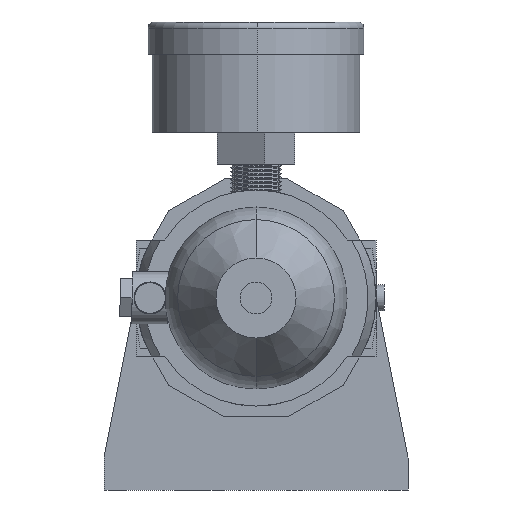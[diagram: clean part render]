
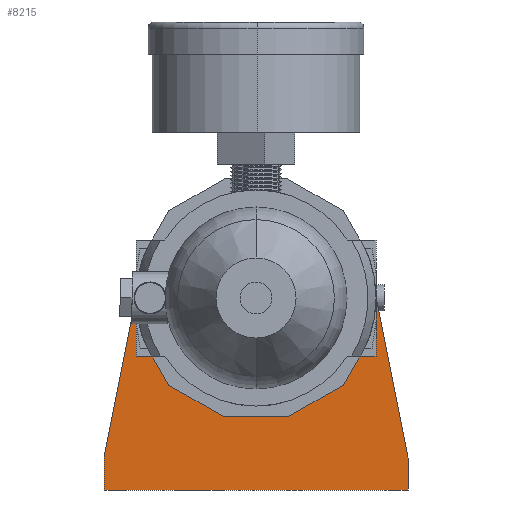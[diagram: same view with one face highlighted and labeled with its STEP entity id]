
A CAD part, front view. The second image highlights one B-rep face of the part: STEP entity #8215.
In plain terms, the highlighted planar face has unit normal (0, -1, 0).
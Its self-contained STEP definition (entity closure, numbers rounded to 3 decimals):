
#681 = FACE_BOUND ( 'NONE', #10106, .T. ) ;
#684 = CIRCLE ( 'NONE', #8093, 24. ) ;
#969 = VERTEX_POINT ( 'NONE', #12453 ) ;
#1250 = EDGE_CURVE ( 'NONE', #31933, #11631, #29582, .T. ) ;
#1521 = DIRECTION ( 'NONE',  ( 0., 0., 1. ) ) ;
#1765 = VECTOR ( 'NONE', #17009, 1000. ) ;
#4332 = ORIENTED_EDGE ( 'NONE', *, *, #16694, .T. ) ;
#5361 = DIRECTION ( 'NONE',  ( 0.194, 0., -0.981 ) ) ;
#5439 = CIRCLE ( 'NONE', #16686, 24. ) ;
#5521 = EDGE_CURVE ( 'NONE', #14869, #969, #7245, .T. ) ;
#5732 = CARTESIAN_POINT ( 'NONE',  ( -28.937, 0., 5.734 ) ) ;
#5785 = VERTEX_POINT ( 'NONE', #7283 ) ;
#5841 = CARTESIAN_POINT ( 'NONE',  ( 0., 0., 0. ) ) ;
#7245 = LINE ( 'NONE', #26387, #14592 ) ;
#7283 = CARTESIAN_POINT ( 'NONE',  ( 0., 0., -24. ) ) ;
#8093 = AXIS2_PLACEMENT_3D ( 'NONE', #11453, #19132, #1521 ) ;
#8215 = ADVANCED_FACE ( 'NONE', ( #681, #16583 ), #14059, .F. ) ;
#8941 = CIRCLE ( 'NONE', #16298, 29.5 ) ;
#9382 = LINE ( 'NONE', #20181, #27949 ) ;
#9748 = ORIENTED_EDGE ( 'NONE', *, *, #20143, .T. ) ;
#9886 = CARTESIAN_POINT ( 'NONE',  ( 28.937, 0., 5.734 ) ) ;
#9991 = CARTESIAN_POINT ( 'NONE',  ( -38., 0., -48. ) ) ;
#10106 = EDGE_LOOP ( 'NONE', ( #9748, #4332 ) ) ;
#10832 = AXIS2_PLACEMENT_3D ( 'NONE', #31315, #18827, #11461 ) ;
#10983 = ORIENTED_EDGE ( 'NONE', *, *, #18064, .F. ) ;
#11099 = CARTESIAN_POINT ( 'NONE',  ( 0., 0., 0. ) ) ;
#11453 = CARTESIAN_POINT ( 'NONE',  ( 0., 0., 0. ) ) ;
#11461 = DIRECTION ( 'NONE',  ( 0., 0., 1. ) ) ;
#11631 = VERTEX_POINT ( 'NONE', #21179 ) ;
#12453 = CARTESIAN_POINT ( 'NONE',  ( 38., 0., -48. ) ) ;
#12813 = EDGE_CURVE ( 'NONE', #969, #31933, #19304, .T. ) ;
#13302 = DIRECTION ( 'NONE',  ( 0., 1., 0. ) ) ;
#13334 = ORIENTED_EDGE ( 'NONE', *, *, #15543, .F. ) ;
#13368 = VERTEX_POINT ( 'NONE', #28459 ) ;
#14059 = PLANE ( 'NONE',  #10832 ) ;
#14592 = VECTOR ( 'NONE', #31449, 1000. ) ;
#14775 = ORIENTED_EDGE ( 'NONE', *, *, #5521, .F. ) ;
#14869 = VERTEX_POINT ( 'NONE', #23583 ) ;
#15543 = EDGE_CURVE ( 'NONE', #18454, #14869, #9382, .T. ) ;
#16091 = DIRECTION ( 'NONE',  ( 0., 1., 0. ) ) ;
#16298 = AXIS2_PLACEMENT_3D ( 'NONE', #11099, #16091, #28263 ) ;
#16583 = FACE_OUTER_BOUND ( 'NONE', #31507, .T. ) ;
#16601 = VECTOR ( 'NONE', #31587, 1000. ) ;
#16686 = AXIS2_PLACEMENT_3D ( 'NONE', #5841, #13302, #20486 ) ;
#16694 = EDGE_CURVE ( 'NONE', #5785, #13368, #5439, .T. ) ;
#17009 = DIRECTION ( 'NONE',  ( 0., 0., 1. ) ) ;
#17524 = ORIENTED_EDGE ( 'NONE', *, *, #1250, .F. ) ;
#18064 = EDGE_CURVE ( 'NONE', #19274, #18454, #8941, .T. ) ;
#18454 = VERTEX_POINT ( 'NONE', #9886 ) ;
#18529 = ORIENTED_EDGE ( 'NONE', *, *, #26731, .F. ) ;
#18827 = DIRECTION ( 'NONE',  ( 0., 1., 0. ) ) ;
#19132 = DIRECTION ( 'NONE',  ( 0., 1., 0. ) ) ;
#19274 = VERTEX_POINT ( 'NONE', #5732 ) ;
#19304 = LINE ( 'NONE', #9991, #21256 ) ;
#19866 = DIRECTION ( 'NONE',  ( -1., 0., 0. ) ) ;
#20143 = EDGE_CURVE ( 'NONE', #13368, #5785, #684, .T. ) ;
#20181 = CARTESIAN_POINT ( 'NONE',  ( 38., 0., -40. ) ) ;
#20486 = DIRECTION ( 'NONE',  ( 0., 0., 1. ) ) ;
#21179 = CARTESIAN_POINT ( 'NONE',  ( -38., 0., -40. ) ) ;
#21256 = VECTOR ( 'NONE', #19866, 1000. ) ;
#23583 = CARTESIAN_POINT ( 'NONE',  ( 38., 0., -40. ) ) ;
#26009 = CARTESIAN_POINT ( 'NONE',  ( -38., 0., -48. ) ) ;
#26387 = CARTESIAN_POINT ( 'NONE',  ( 38., 0., -48. ) ) ;
#26728 = CARTESIAN_POINT ( 'NONE',  ( -38., 0., -40. ) ) ;
#26731 = EDGE_CURVE ( 'NONE', #11631, #19274, #27774, .T. ) ;
#27774 = LINE ( 'NONE', #26728, #16601 ) ;
#27949 = VECTOR ( 'NONE', #5361, 1000. ) ;
#28263 = DIRECTION ( 'NONE',  ( 0., 0., 1. ) ) ;
#28459 = CARTESIAN_POINT ( 'NONE',  ( 0., 0., 24. ) ) ;
#29271 = ORIENTED_EDGE ( 'NONE', *, *, #12813, .F. ) ;
#29483 = CARTESIAN_POINT ( 'NONE',  ( -38., 0., -48. ) ) ;
#29582 = LINE ( 'NONE', #29483, #1765 ) ;
#31315 = CARTESIAN_POINT ( 'NONE',  ( 0., 0., 0. ) ) ;
#31449 = DIRECTION ( 'NONE',  ( 0., 0., -1. ) ) ;
#31507 = EDGE_LOOP ( 'NONE', ( #18529, #17524, #29271, #14775, #13334, #10983 ) ) ;
#31587 = DIRECTION ( 'NONE',  ( 0.194, 0., 0.981 ) ) ;
#31933 = VERTEX_POINT ( 'NONE', #26009 ) ;
